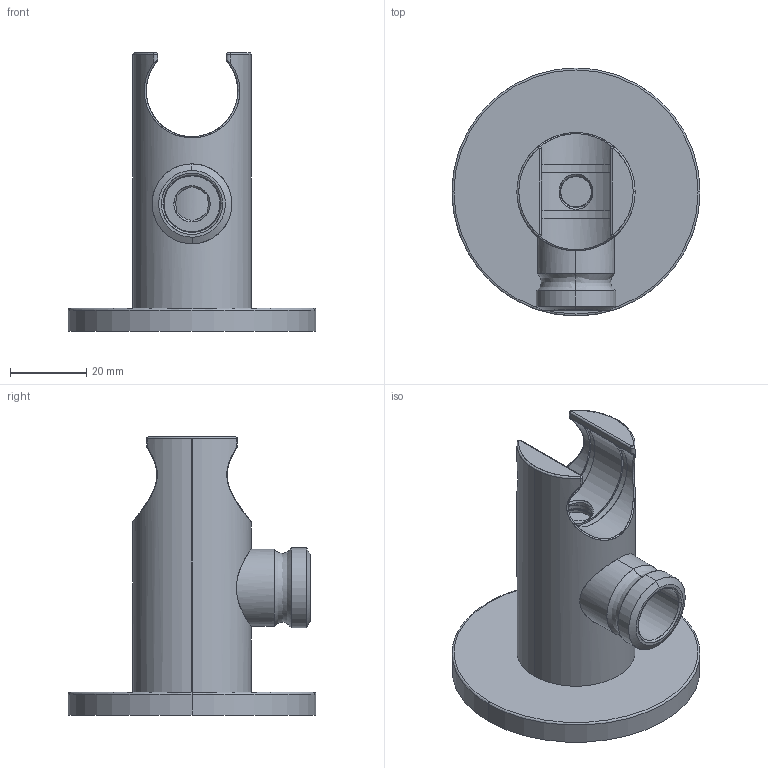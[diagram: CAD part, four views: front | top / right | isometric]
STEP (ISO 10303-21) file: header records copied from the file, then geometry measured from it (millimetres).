
FILE_DESCRIPTION(('STEP AP203'),'2;1');
FILE_NAME('DIS_3D_9323.stp','2020-05-19T12:48:39',(''),(''),'2015.2.119','THINKDESIGN','');
FILE_SCHEMA(('CONFIG_CONTROL_DESIGN'));
Length unit declared in the file: millimetre
Bounding box: 65 x 65 x 73 mm (x, y, z)
Volume: 18779.3 mm3; surface area: 18756.9 mm2
Topology: 1 solids, 1 shells, 132 faces, 628 edges, 618 vertices
Faces by surface type: cylinder 54, bspline 41, plane 37
Entity records: 8911 total; most frequent: CARTESIAN_POINT 5932, COMPOSITE_CURVE_SEGMENT 606, DIRECTION 590, TRIMMED_CURVE 266, AXIS2_PLACEMENT_3D 213, B_SPLINE_CURVE_WITH_KNOTS 198, VECTOR 164, LINE 164
